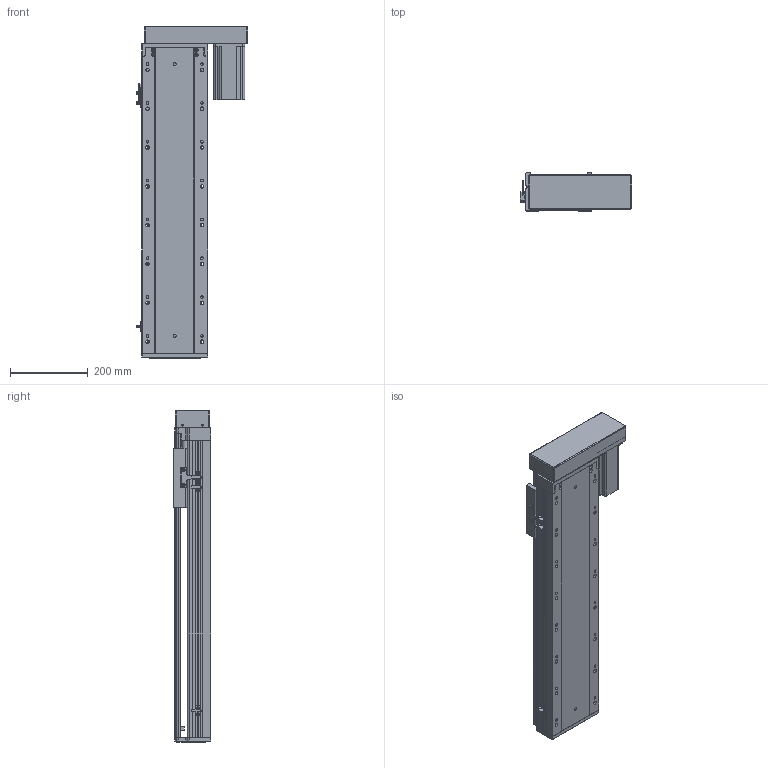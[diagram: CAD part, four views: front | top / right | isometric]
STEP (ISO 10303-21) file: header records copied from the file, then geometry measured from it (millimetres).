
FILE_DESCRIPTION (( 'STEP AP203' ), '1' );
FILE_NAME ('RY170-L2510-300-RK.SLDASM_550.step', '2021-03-12T09:19:18', ( '盈信电脑' ), ( '东莞市道滘镇水果街19号' ), 'SwSTEP 2.0', 'SolidWorks 2012', '' );
FILE_SCHEMA (( 'CONFIG_CONTROL_DESIGN' ));
Length unit declared in the file: millimetre
Products named in the file (14): RY170-L2510-300-RK.SLDASM_550; RY170外置感应片(200共用）; RY170酘衵殏萇儂欶750W; 怢湛750W萇儂ㄗ80遺ㄘ; 覜茼ん672; RY170-酘衵殏750W萇儂傷; RY170-左右折电机安装板750W; RY170转折电机端支撑座(7004); 滅袉蝶18-10; 改造-RY170铝滑块25丝杆螺母; RY170綴裔啣; 滅袉蝶18-20; RY170-300倰第裔啣-RK_550; RY170-300倰第菁釱-RK_550
Assembly tree (15 placements, depth 3):
  RY170-L2510-300-RK.SLDASM_550
    RY170-300倰第菁釱-RK_550
    改造-RY170铝滑块25丝杆螺母
    RY170-300倰第裔啣-RK_550
    RY170綴裔啣
    滅袉蝶18-20
    滅袉蝶18-10
    RY170转折电机端支撑座(7004)
    RY170-酘衵殏750W萇儂傷
      RY170-左右折电机安装板750W
      RY170酘衵殏萇儂欶750W
      怢湛750W萇儂ㄗ80遺ㄘ
    覜茼ん672  x3
    RY170外置感应片(200共用）
Bounding box: 286.2 x 97 x 855 mm (x, y, z)
Volume: 5322973.8 mm3; surface area: 1590510.6 mm2
Topology: 14 solids, 14 shells, 2155 faces, 6206 edges, 4004 vertices
Faces by surface type: plane 1088, cylinder 894, cone 154, bspline 19
Entity records: 70235 total; most frequent: CARTESIAN_POINT 17026, ORIENTED_EDGE 11196, DIRECTION 10284, EDGE_CURVE 5598, VERTEX_POINT 3684, LINE 3444, VECTOR 3444, AXIS2_PLACEMENT_3D 3420
